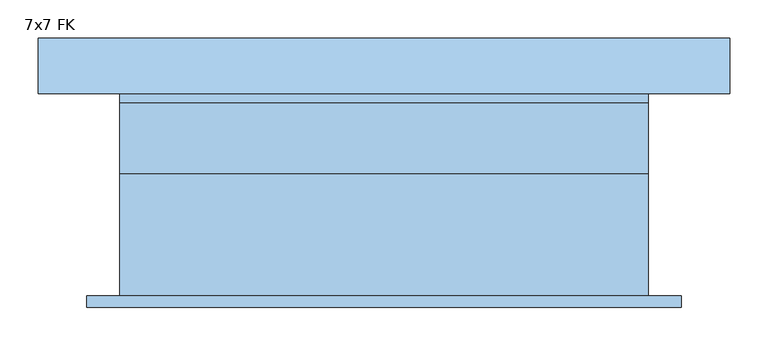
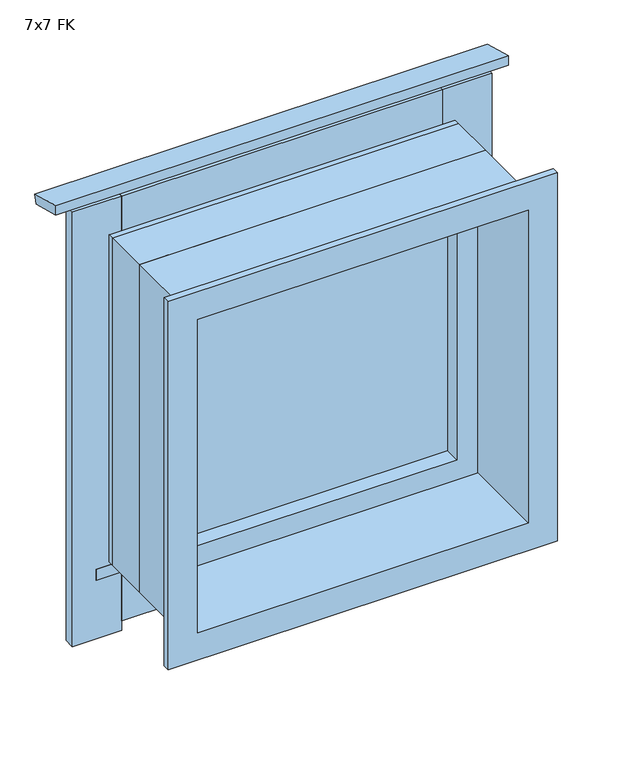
"""IFC4 building model written with IfcOpenShell, lengths in millimetres: window geometry, Vindu FK : 7x7 FK."""

from ifc_helpers import new_model, si_unit, frame, origin, place, context, project, spatial, polyline, outline, extrude, faceted_brep, source, transform, mapped, element, save


def window_7x7_fk_a7d3f3a8(model_context):
    return source(origin(), model_context, "Body", "SolidModel", [
        extrude(outline(polyline([(204.444437, 1659.1537013), (199.5268751, 1640.8011106), (132.0, 1658.8948822), (132.0, 1678.5651297), (204.444437, 1659.1537013)])), frame((-451.0, 0.0, 0.0), z_axis=(1.0, 0.0, 0.0), x_axis=(0.0, 1.0, 0.0)), (0.0, 0.0, 1.0), 902.0),
        extrude(outline(polyline([(180.2962913, 870.6791642), (174.6022723, 849.4287961), (132.0, 860.8440405), (132.0, 883.6201165), (180.2962913, 870.6791642)])), frame((-371.0, 0.0, 0.0), z_axis=(1.0, 0.0, 0.0), x_axis=(0.0, 1.0, 0.0)), (0.0, 0.0, 1.0), 742.0),
        extrude(outline(polyline([(-320.0, 132.0), (-320.0, 154.0), (320.0, 154.0), (320.0, 132.0), (-320.0, 132.0)])), frame((0.0, 0.0, 757.0051732), z_axis=(0.0, 0.0, 1.0), x_axis=(1.0, 0.0, 0.0)), (0.0, 0.0, 1.0), 98.0),
        extrude(outline(polyline([(-320.0, 132.0), (-320.0, 154.0), (320.0, 154.0), (320.0, 132.0), (-320.0, 132.0)])), frame((0.0, 0.0, 1555.0), z_axis=(0.0, 0.0, 1.0), x_axis=(1.0, 0.0, 0.0)), (0.0, 0.0, 1.0), 98.0),
        extrude(outline(polyline([(418.0, 132.0), (320.0, 132.0), (320.0, 154.0), (418.0, 154.0), (418.0, 132.0)])), frame((0.0, 0.0, 737.0), z_axis=(0.0, 0.0, 1.0), x_axis=(1.0, 0.0, 0.0)), (0.0, 0.0, 1.0), 916.0),
        extrude(outline(polyline([(-320.0, 132.0), (-418.0, 132.0), (-418.0, 154.0), (-320.0, 154.0), (-320.0, 132.0)])), frame((0.0, 0.0, 737.0), z_axis=(0.0, 0.0, 1.0), x_axis=(1.0, 0.0, 0.0)), (0.0, 0.0, 1.0), 916.0),
        extrude(outline(polyline([(-306.0, 84.0), (306.0, 84.0), (306.0, 60.0), (-306.0, 60.0), (-306.0, 84.0)])), frame((0.0, 0.0, 929.0), z_axis=(0.0, 0.0, 1.0), x_axis=(1.0, 0.0, 0.0)), (0.0, 0.0, 1.0), 612.0),
        faceted_brep([(-345.0, 120.0, 890.0), (-345.0, 28.0, 890.0), (-345.0, 28.0, 1580.0), (-345.0, 120.0, 1580.0), (-306.0, 60.0, 929.0), (-306.0, 120.0, 929.0), (-306.0, 120.0, 1541.0), (-306.0, 60.0, 1541.0), (-288.0, 28.0, 947.0), (-288.0, 60.0, 947.0), (-288.0, 60.0, 1523.0), (-288.0, 28.0, 1523.0), (345.0, 28.0, 1580.0), (345.0, 120.0, 1580.0), (306.0, 120.0, 1541.0), (306.0, 60.0, 1541.0), (288.0, 60.0, 1523.0), (288.0, 28.0, 1523.0), (345.0, 28.0, 890.0), (345.0, 120.0, 890.0), (306.0, 120.0, 929.0), (306.0, 60.0, 929.0), (288.0, 60.0, 947.0), (288.0, 28.0, 947.0)], [[[0, 1, 2, 3]], [[4, 5, 6, 7]], [[8, 9, 10, 11]], [[3, 2, 12, 13]], [[7, 6, 14, 15]], [[11, 10, 16, 17]], [[13, 12, 18, 19]], [[15, 14, 20, 21]], [[17, 16, 22, 23]], [[19, 18, 1, 0]], [[3, 13, 19, 0], [5, 20, 14, 6]], [[21, 20, 5, 4]], [[7, 15, 21, 4], [9, 22, 16, 10]], [[23, 22, 9, 8]], [[1, 18, 12, 2], [11, 17, 23, 8]]]),
        faceted_brep([(-345.0, -132.0, 890.0), (-345.0, 28.0, 890.0), (345.0, 28.0, 890.0), (345.0, -132.0, 890.0), (345.0, 28.0, 1580.0), (345.0, -132.0, 1580.0), (-345.0, 28.0, 1580.0), (330.0, 28.0, 1565.0), (-330.0, 28.0, 1565.0), (-330.0, 28.0, 905.0), (330.0, 28.0, 905.0), (388.0, -132.0, 847.0), (-388.0, -132.0, 847.0), (-388.0, -132.0, 1623.0), (388.0, -132.0, 1623.0), (-345.0, -132.0, 1580.0), (-388.0, -147.0, 847.0), (388.0, -147.0, 847.0), (388.0, -147.0, 1623.0), (-388.0, -147.0, 1623.0), (330.0, -147.0, 905.0), (-330.0, -147.0, 905.0), (-330.0, -147.0, 1565.0), (330.0, -147.0, 1565.0)], [[[0, 1, 2, 3]], [[3, 2, 4, 5]], [[2, 1, 6, 4], [7, 8, 9, 10]], [[11, 12, 13, 14], [5, 15, 0, 3]], [[16, 12, 11, 17]], [[17, 11, 14, 18]], [[18, 19, 16, 17], [20, 21, 22, 23]], [[9, 21, 20, 10]], [[10, 20, 23, 7]], [[15, 6, 1, 0]], [[19, 13, 12, 16]], [[8, 22, 21, 9]], [[5, 4, 6, 15]], [[18, 14, 13, 19]], [[7, 23, 22, 8]]]),
        extrude(outline(polyline([(890.0, 320.0), (890.0, 345.0), (1580.0, 345.0), (1580.0, -345.0), (890.0, -345.0), (890.0, -320.0), (1555.0, -320.0), (1555.0, 320.0), (890.0, 320.0)])), frame((0.0, 120.0, 0.0), z_axis=(0.0, 1.0, 0.0), x_axis=(0.0, 0.0, 1.0)), (0.0, 0.0, 1.0), 12.0),
    ])


if __name__ == "__main__":
    model = new_model("IFC4")
    model_context = context("Model", 3, world=origin())
    ifc_project = project(units=[si_unit("LENGTHUNIT", "METRE", prefix="MILLI")], contexts=[model_context])
    site = spatial("IfcSite", under=ifc_project)
    building = spatial("IfcBuilding", under=site)
    placement = place(None, origin())
    window_7x7_fk_shape = window_7x7_fk_a7d3f3a8(model_context)
    element("IfcWindow", 1, ObjectType="Vindu FK : 7x7 FK", at=placement, inside=building, context=model_context, shape_type="MappedRepresentation", body=[
        mapped(window_7x7_fk_shape, transform((0.0, 0.0, 0.0), x_axis=(1.0, 0.0, 0.0), y_axis=(0.0, 1.0, 0.0), z_axis=(0.0, 0.0, 1.0))),
    ])
    save(model, "model.ifc")
